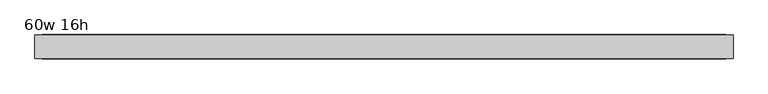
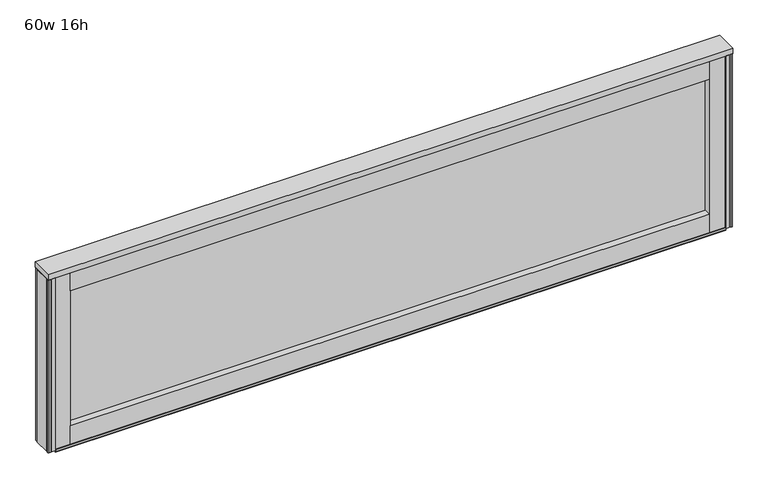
"""IFC4 building model written with IfcOpenShell, lengths in millimetres: furniture geometry, Haworth_UniGroupToo_Panel_GlazedAddOn : 60w 16h."""

import ifcopenshell
import ifcopenshell.guid

model = None  # the IFC model being written
_history = None  # IfcOwnerHistory: only IFC2X3 demands one
_inside = {}  # id of a spatial element -> (the spatial element, [elements in it])
_under = {}  # id of a project, library or spatial element -> (it, [spatial elements below it])
_declared = {}  # id of a project -> (the project, [libraries it declares])
_typed = {}  # id of a type object -> (the type object, [elements of that type])
_made_of = {}  # id of a material, layer set ... -> (it, [elements and type objects made of it])


def new_model(schema):
    """Start an empty IFC model of exactly this schema.

    Asked for "IFC4X3", IfcOpenShell would pick the latest addendum, in which some entities
    have other attributes; the version numbers below select the first issue.
    IFC2X3 requires an IfcOwnerHistory on every rooted entity: one is made here for all.
    """
    global model, _history
    if schema == "IFC4X3":
        model = ifcopenshell.file(schema_version=(4, 3, 0, 0))
    else:
        model = ifcopenshell.file(schema=schema)
    _inside.clear()
    _under.clear()
    _declared.clear()
    _typed.clear()
    _made_of.clear()
    _history = None
    if model.schema == "IFC2X3":
        org = make("IfcOrganization", Name="unknown")
        user = make(
            "IfcPersonAndOrganization",
            ThePerson=make("IfcPerson", FamilyName="unknown"),
            TheOrganization=org,
        )
        app = make(
            "IfcApplication",
            ApplicationDeveloper=org,
            Version="unknown",
            ApplicationFullName="unknown",
            ApplicationIdentifier="unknown",
        )
        _history = make(
            "IfcOwnerHistory",
            OwningUser=user,
            OwningApplication=app,
            ChangeAction="ADDED",
            CreationDate=0,
        )
    return model


def make(cls, **values):
    """One entity of the class cls with the attributes given. An attribute that is None is left unset."""
    return model.create_entity(
        cls, **{name: value for name, value in values.items() if value is not None}
    )


def rooted(cls, **values):
    """An entity with a GlobalId (a new one), such as an element, a storey or a relation."""
    return make(cls, GlobalId=ifcopenshell.guid.new(), OwnerHistory=_history, **values)


def si_unit(unit_type, name, prefix=None):
    """IfcSIUnit, for example si_unit("LENGTHUNIT", "METRE", prefix="MILLI")."""
    return make("IfcSIUnit", UnitType=unit_type, Prefix=prefix, Name=name)


def assignment(units):
    """IfcUnitAssignment: the units of a project."""
    return None if units is None else make("IfcUnitAssignment", Units=units)


def point(xyz):
    """IfcCartesianPoint."""
    return None if xyz is None else make("IfcCartesianPoint", Coordinates=xyz)


def direction(xyz):
    """IfcDirection."""
    return None if xyz is None else make("IfcDirection", DirectionRatios=xyz)


def frame(location, z_axis=None, x_axis=None):
    """IfcAxis2Placement3D, a coordinate frame: its origin and axes. An axis left out is left unset."""
    return make(
        "IfcAxis2Placement3D",
        Location=point(location),
        Axis=direction(z_axis),
        RefDirection=direction(x_axis),
    )


def origin():
    """The frame at (0, 0, 0) with its axes left unset."""
    return frame((0.0, 0.0, 0.0))


def place(relative_to, where):
    """IfcLocalPlacement: puts the frame where relative to a parent placement (None: the world)."""
    return make(
        "IfcLocalPlacement", PlacementRelTo=relative_to, RelativePlacement=where
    )


def context(
    kind, dimensions, precision=None, world=None, true_north=None, identifier=None
):
    """IfcGeometricRepresentationContext, for example the 3D "Model" context."""
    return make(
        "IfcGeometricRepresentationContext",
        ContextIdentifier=identifier,
        ContextType=kind,
        CoordinateSpaceDimension=dimensions,
        Precision=precision,
        WorldCoordinateSystem=world,
        TrueNorth=true_north,
    )


def project(units=None, contexts=None):
    """IfcProject with its units and contexts."""
    return rooted(
        "IfcProject",
        Name="project",
        RepresentationContexts=contexts,
        UnitsInContext=assignment(units),
    )


def spatial(cls, under=None, at=None, **own):
    """A site, building, storey or space (cls), placed at a placement, below another one or the project."""
    s = rooted(cls, ObjectPlacement=at, **own)
    if under is not None:
        _under.setdefault(under.id(), (under, []))[1].append(s)
    return s


def polyline(points):
    """IfcPolyline through the points."""
    return make("IfcPolyline", Points=[point(p) for p in points])


def outline(outer, holes=None, kind="AREA"):
    """IfcArbitraryClosedProfileDef: a profile drawn as a closed curve; with holes, ...WithVoids."""
    if holes is None:
        return make("IfcArbitraryClosedProfileDef", ProfileType=kind, OuterCurve=outer)
    return make(
        "IfcArbitraryProfileDefWithVoids",
        ProfileType=kind,
        OuterCurve=outer,
        InnerCurves=holes,
    )


def extrude(swept, where, along, depth):
    """IfcExtrudedAreaSolid: the profile swept, set in the frame where, extruded along a direction by depth."""
    return make(
        "IfcExtrudedAreaSolid",
        SweptArea=swept,
        Position=where,
        ExtrudedDirection=direction(along),
        Depth=depth,
    )


def shape(context_of_items, identifier, shape_type, items):
    """IfcShapeRepresentation: the items that make up one representation, for example the "Body"."""
    return make(
        "IfcShapeRepresentation",
        ContextOfItems=context_of_items,
        RepresentationIdentifier=identifier,
        RepresentationType=shape_type,
        Items=items,
    )


def source(mapping_origin, context_of_items, identifier, shape_type, items):
    """IfcRepresentationMap: a shape defined once, which mapped items show again and again."""
    return make(
        "IfcRepresentationMap",
        MappingOrigin=mapping_origin,
        MappedRepresentation=shape(context_of_items, identifier, shape_type, items),
    )


def transform(
    local_origin,
    x_axis=None,
    y_axis=None,
    z_axis=None,
    scale=None,
    scale2=None,
    scale3=None,
    uniform=True,
):
    """IfcCartesianTransformationOperator3D, or its non-uniform kind. x_axis, y_axis, z_axis: its Axis1, 2, 3."""
    if uniform:
        return make(
            "IfcCartesianTransformationOperator3D",
            Axis1=direction(x_axis),
            Axis2=direction(y_axis),
            LocalOrigin=point(local_origin),
            Scale=scale,
            Axis3=direction(z_axis),
        )
    return make(
        "IfcCartesianTransformationOperator3DnonUniform",
        Axis1=direction(x_axis),
        Axis2=direction(y_axis),
        LocalOrigin=point(local_origin),
        Scale=scale,
        Axis3=direction(z_axis),
        Scale2=scale2,
        Scale3=scale3,
    )


def mapped(mapping_source, mapping_target):
    """IfcMappedItem: shows the shape of a source again, moved by a transform."""
    return make(
        "IfcMappedItem", MappingSource=mapping_source, MappingTarget=mapping_target
    )


def made_of(thing, what):
    """Note that an element or type object is made of a material, layer set ...; save() writes the relation."""
    if what is not None:
        _made_of.setdefault(what.id(), (what, []))[1].append(thing)
    return thing


def element(
    cls,
    number,
    at=None,
    inside=None,
    cuts=None,
    type_object=None,
    material=None,
    context=None,
    identifier="Body",
    shape_type=None,
    held_by="IfcProductDefinitionShape",
    body=None,
    shapes=None,
    **own,
):
    """One element of the class cls, such as IfcWall. Its Tag is "e" and its number.

    at: its placement. inside: the storey or other place that contains it. cuts: it is an
    opening in that element (IfcRelVoidsElement). A single representation is given by context,
    identifier, shape_type and body (its items); several are given by shapes. held_by: the class
    of the entity that holds the representations. save() writes the other relations.
    """
    e = rooted(cls, Tag="e%d" % number, ObjectPlacement=at, **own)
    if body is not None:
        shapes = [shape(context, identifier, shape_type, body)]
    if shapes is not None:
        e.Representation = make(held_by, Representations=shapes)
    if inside is not None:
        _inside.setdefault(inside.id(), (inside, []))[1].append(e)
    if cuts is not None:
        rooted(
            "IfcRelVoidsElement", RelatingBuildingElement=cuts, RelatedOpeningElement=e
        )
    if type_object is not None:
        _typed.setdefault(type_object.id(), (type_object, []))[1].append(e)
    return made_of(e, material)


def aggregate(whole, parts):
    """IfcRelAggregates: a whole, such as a stair, and the parts it consists of."""
    return rooted("IfcRelAggregates", RelatingObject=whole, RelatedObjects=parts)


def save(model, path):
    """Write the relations noted so far, then the file.

    IfcRelAggregates (storeys below a building ...), IfcRelContainedInSpatialStructure (elements
    in a storey), IfcRelDefinesByType, IfcRelAssociatesMaterial and IfcRelDeclares: one each for
    every whole, place, type object, material and project.
    """
    for whole, parts in _under.values():
        aggregate(whole, parts)
    for where, things in _inside.values():
        rooted(
            "IfcRelContainedInSpatialStructure",
            RelatedElements=things,
            RelatingStructure=where,
        )
    for kind, things in _typed.values():
        rooted("IfcRelDefinesByType", RelatedObjects=things, RelatingType=kind)
    for what, things in _made_of.values():
        rooted("IfcRelAssociatesMaterial", RelatedObjects=things, RelatingMaterial=what)
    for by, libraries in _declared.values():
        rooted("IfcRelDeclares", RelatingContext=by, RelatedDefinitions=libraries)
    model.write(path)


def furniture_60w_16h_51d2d3f0(model_context):
    return source(origin(), model_context, "Body", "SweptSolid", [
        extrude(outline(polyline([(-759.5597098, -16.5777477), (-759.5597098, 16.5777477), (-757.8959283, 16.5777477), (-757.8959283, 19.6514836), (-759.5597098, 19.6514836), (-759.5597098, 23.7362925), (-757.8960023, 25.4), (-754.7358151, 25.4), (-754.7358151, 16.3224762), (-751.5639389, 16.3224762), (-751.5639389, 25.4), (-743.6847098, 25.4), (-743.6847098, -25.4), (-751.5639389, -25.4), (-751.5639389, -16.3224762), (-754.7358151, -16.3224762), (-754.7358151, -25.4), (-757.8960023, -25.4), (-759.5597098, -23.7362925), (-759.5597098, -19.6514836), (-757.8959283, -19.6514836), (-757.8959283, -16.5777477), (-759.5597098, -16.5777477)])), frame((0.0, 0.0, 1206.5), z_axis=(0.0, 0.0, 1.0), x_axis=(1.0, 0.0, 0.0)), (0.0, 0.0, 1.0), 406.4),
        extrude(outline(polyline([(764.4402902, -16.5777477), (762.7765086, -16.5777477), (762.7765086, -19.6514836), (764.4402902, -19.6514836), (764.4402902, -23.7362925), (762.7765827, -25.4), (759.6163954, -25.4), (759.6163954, -16.3224762), (756.4445192, -16.3224762), (756.4445192, -25.4), (748.5652902, -25.4), (748.5652902, 25.4), (756.4445192, 25.4), (756.4445192, 16.3224762), (759.6163954, 16.3224762), (759.6163954, 25.4), (762.7765827, 25.4), (764.4402902, 23.7362925), (764.4402902, 19.6514836), (762.7765086, 19.6514836), (762.7765086, 16.5777477), (764.4402902, 16.5777477), (764.4402902, -16.5777477)])), frame((0.0, 0.0, 1206.5), z_axis=(0.0, 0.0, 1.0), x_axis=(1.0, 0.0, 0.0)), (0.0, 0.0, 1.0), 406.4),
        extrude(outline(polyline([(26.3921875, 1208.9368125), (26.3921875, 1204.0631875), (25.4, 1203.071), (25.4, 1209.929), (26.3921875, 1208.9368125)])), frame((-743.6847098, 0.0, 0.0), z_axis=(1.0, 0.0, 0.0), x_axis=(0.0, 1.0, 0.0)), (0.0, 0.0, 1.0), 1492.25),
        extrude(outline(polyline([(-26.3921875, 1208.9368125), (-25.4, 1209.929), (-25.4, 1203.071), (-26.3921875, 1204.0631875), (-26.3921875, 1208.9368125)])), frame((-743.6847098, 0.0, 0.0), z_axis=(1.0, 0.0, 0.0), x_axis=(0.0, 1.0, 0.0)), (0.0, 0.0, 1.0), 1492.25),
        extrude(outline(polyline([(713.6402902, 6.35), (713.6402902, -6.35), (-708.7597098, -6.35), (-708.7597098, 6.35), (713.6402902, 6.35)])), frame((0.0, 0.0, 1250.95), z_axis=(0.0, 0.0, 1.0), x_axis=(1.0, 0.0, 0.0)), (0.0, 0.0, 1.0), 317.5),
        extrude(outline(polyline([(-708.7597098, 22.225), (713.6402902, 22.225), (713.6402902, -22.225), (-708.7597098, -22.225), (-708.7597098, 22.225)])), frame((0.0, 0.0, 1568.45), z_axis=(0.0, 0.0, 1.0), x_axis=(1.0, 0.0, 0.0)), (0.0, 0.0, 1.0), 44.45),
        extrude(outline(polyline([(-708.7597098, 22.225), (713.6402902, 22.225), (713.6402902, -22.225), (-708.7597098, -22.225), (-708.7597098, 22.225)])), frame((0.0, 0.0, 1206.5), z_axis=(0.0, 0.0, 1.0), x_axis=(1.0, 0.0, 0.0)), (0.0, 0.0, 1.0), 44.45),
        extrude(outline(polyline([(-708.7597098, 22.225), (-708.7597098, -22.225), (-743.6847098, -22.225), (-743.6847098, 22.225), (-708.7597098, 22.225)])), frame((0.0, 0.0, 1206.5), z_axis=(0.0, 0.0, 1.0), x_axis=(1.0, 0.0, 0.0)), (0.0, 0.0, 1.0), 406.4),
        extrude(outline(polyline([(748.5652902, 22.225), (748.5652902, -22.225), (713.6402902, -22.225), (713.6402902, 22.225), (748.5652902, 22.225)])), frame((0.0, 0.0, 1206.5), z_axis=(0.0, 0.0, 1.0), x_axis=(1.0, 0.0, 0.0)), (0.0, 0.0, 1.0), 406.4),
        extrude(outline(polyline([(764.4402902, 25.4), (764.4402902, -25.4), (-759.5597098, -25.4), (-759.5597098, 25.4), (764.4402902, 25.4)])), frame((0.0, 0.0, 1612.9), z_axis=(0.0, 0.0, 1.0), x_axis=(1.0, 0.0, 0.0)), (0.0, 0.0, 1.0), 12.7),
    ])


if __name__ == "__main__":
    model = new_model("IFC4")
    model_context = context("Model", 3, world=origin())
    ifc_project = project(units=[si_unit("LENGTHUNIT", "METRE", prefix="MILLI")], contexts=[model_context])
    site = spatial("IfcSite", under=ifc_project)
    building = spatial("IfcBuilding", under=site)
    placement = place(None, origin())
    furniture_60w_16h_shape = furniture_60w_16h_51d2d3f0(model_context)
    element("IfcFurniture", 1, ObjectType="Haworth_UniGroupToo_Panel_GlazedAddOn : 60w 16h", at=placement, inside=building, context=model_context, shape_type="MappedRepresentation", body=[
        mapped(furniture_60w_16h_shape, transform((0.0, 0.0, 0.0), x_axis=(1.0, 0.0, 0.0), y_axis=(0.0, 1.0, 0.0), z_axis=(0.0, 0.0, 1.0))),
    ])
    save(model, "model.ifc")
